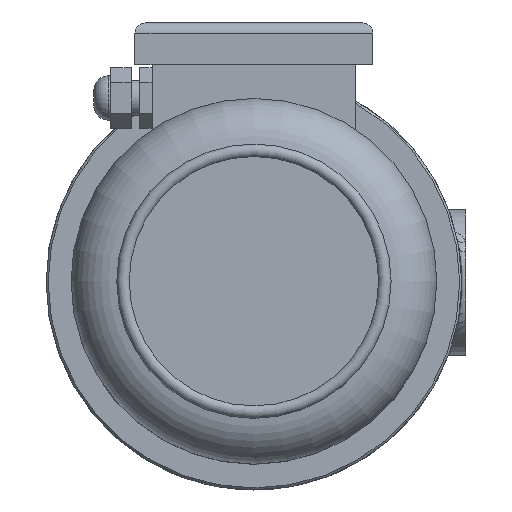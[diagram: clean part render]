
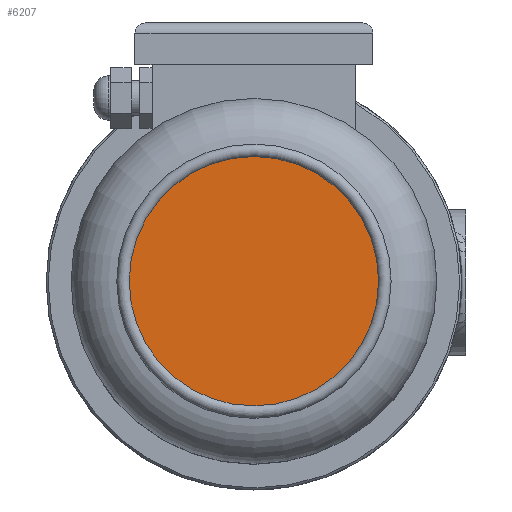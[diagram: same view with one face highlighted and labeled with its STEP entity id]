
A CAD part, top view. The second image highlights one B-rep face of the part: STEP entity #6207.
In plain terms, the highlighted planar face has unit normal (0, 0, 1).
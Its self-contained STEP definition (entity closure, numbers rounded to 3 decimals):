
#419=CIRCLE('',#6749,60.);
#1251=ORIENTED_EDGE('',*,*,#3038,.F.);
#3038=EDGE_CURVE('',#3934,#3934,#419,.T.);
#3934=VERTEX_POINT('',#10595);
#5187=EDGE_LOOP('',(#1251));
#5659=FACE_BOUND('',#5187,.T.);
#6002=PLANE('',#6750);
#6207=ADVANCED_FACE('',(#5659),#6002,.T.);
#6749=AXIS2_PLACEMENT_3D('',#10594,#7718,#7719);
#6750=AXIS2_PLACEMENT_3D('',#10596,#7720,#7721);
#7718=DIRECTION('',(0.,0.,-1.));
#7719=DIRECTION('',(-1.,0.,0.));
#7720=DIRECTION('',(0.,0.,1.));
#7721=DIRECTION('',(1.,0.,0.));
#10594=CARTESIAN_POINT('',(0.,0.,597.584));
#10595=CARTESIAN_POINT('',(-60.,0.,597.584));
#10596=CARTESIAN_POINT('',(-60.,0.,597.584));
